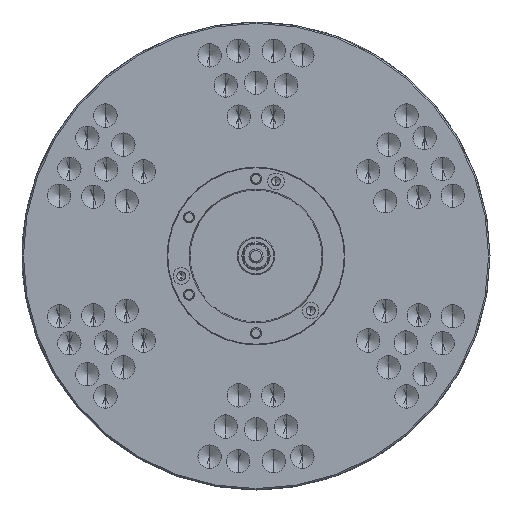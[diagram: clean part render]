
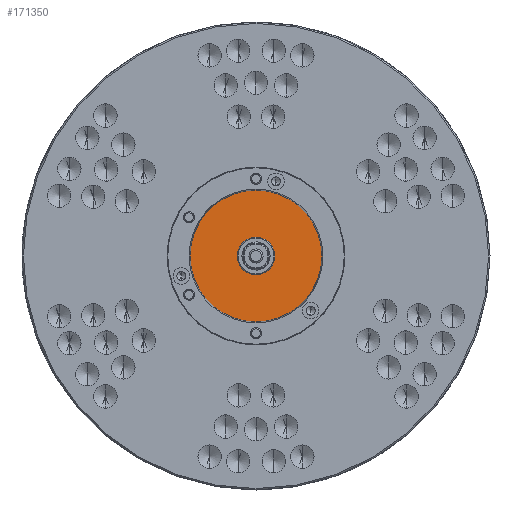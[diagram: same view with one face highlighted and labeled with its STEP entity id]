
A CAD part, left-side view. The second image highlights one B-rep face of the part: STEP entity #171350.
In plain terms, the highlighted planar face has unit normal (-1, 0, 0) as drawn and (0, 0, -1) by its records, which use the part's own axes.
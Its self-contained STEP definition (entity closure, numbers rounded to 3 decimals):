
#9912 = DIRECTION ( 'NONE',  ( 1., 0., 0. ) ) ;
#12284 = EDGE_CURVE ( 'NONE', #143545, #151037, #40623, .T. ) ;
#23674 = EDGE_CURVE ( 'NONE', #90284, #147902, #31644, .T. ) ;
#26079 = CARTESIAN_POINT ( 'NONE',  ( 140.7, 0., -145. ) ) ;
#31644 = CIRCLE ( 'NONE', #101447, 140.7 ) ;
#36770 = AXIS2_PLACEMENT_3D ( 'NONE', #184785, #97228, #9912 ) ;
#39823 = DIRECTION ( 'NONE',  ( 0., 0., 1. ) ) ;
#40623 = CIRCLE ( 'NONE', #48504, 40. ) ;
#48504 = AXIS2_PLACEMENT_3D ( 'NONE', #163256, #75747, #178021 ) ;
#52492 = DIRECTION ( 'NONE',  ( 0., 0., 1. ) ) ;
#53325 = EDGE_CURVE ( 'NONE', #151037, #143545, #156092, .T. ) ;
#53471 = CARTESIAN_POINT ( 'NONE',  ( 40., 0., -145. ) ) ;
#60209 = CARTESIAN_POINT ( 'NONE',  ( -140.7, 0., -145. ) ) ;
#60655 = ORIENTED_EDGE ( 'NONE', *, *, #12284, .T. ) ;
#75747 = DIRECTION ( 'NONE',  ( 0., 0., 1. ) ) ;
#75757 = AXIS2_PLACEMENT_3D ( 'NONE', #112574, #39823, #141941 ) ;
#75853 = DIRECTION ( 'NONE',  ( 0., 0., 1. ) ) ;
#80095 = FACE_OUTER_BOUND ( 'NONE', #184308, .T. ) ;
#83165 = PLANE ( 'NONE',  #75757 ) ;
#88872 = CARTESIAN_POINT ( 'NONE',  ( -40., 0., -145. ) ) ;
#90284 = VERTEX_POINT ( 'NONE', #60209 ) ;
#93834 = CIRCLE ( 'NONE', #36770, 140.7 ) ;
#97228 = DIRECTION ( 'NONE',  ( 0., 0., 1. ) ) ;
#101447 = AXIS2_PLACEMENT_3D ( 'NONE', #163360, #75853, #178126 ) ;
#110315 = EDGE_LOOP ( 'NONE', ( #60655, #127417 ) ) ;
#112574 = CARTESIAN_POINT ( 'NONE',  ( 0., -140.7, -145. ) ) ;
#123011 = ORIENTED_EDGE ( 'NONE', *, *, #171317, .F. ) ;
#127417 = ORIENTED_EDGE ( 'NONE', *, *, #53325, .T. ) ;
#139959 = CARTESIAN_POINT ( 'NONE',  ( 0., 0., -145. ) ) ;
#141941 = DIRECTION ( 'NONE',  ( 1., 0., 0. ) ) ;
#143545 = VERTEX_POINT ( 'NONE', #53471 ) ;
#147902 = VERTEX_POINT ( 'NONE', #26079 ) ;
#151037 = VERTEX_POINT ( 'NONE', #88872 ) ;
#154640 = DIRECTION ( 'NONE',  ( 1., 0., 0. ) ) ;
#156092 = CIRCLE ( 'NONE', #164386, 40. ) ;
#157773 = FACE_BOUND ( 'NONE', #110315, .T. ) ;
#163256 = CARTESIAN_POINT ( 'NONE',  ( 0., 0., -145. ) ) ;
#163360 = CARTESIAN_POINT ( 'NONE',  ( 0., 0., -145. ) ) ;
#164386 = AXIS2_PLACEMENT_3D ( 'NONE', #139959, #52492, #154640 ) ;
#164888 = ORIENTED_EDGE ( 'NONE', *, *, #23674, .F. ) ;
#171317 = EDGE_CURVE ( 'NONE', #147902, #90284, #93834, .T. ) ;
#171350 = ADVANCED_FACE ( 'NONE', ( #157773, #80095 ), #83165, .F. ) ;
#178021 = DIRECTION ( 'NONE',  ( 1., 0., 0. ) ) ;
#178126 = DIRECTION ( 'NONE',  ( 1., 0., 0. ) ) ;
#184308 = EDGE_LOOP ( 'NONE', ( #123011, #164888 ) ) ;
#184785 = CARTESIAN_POINT ( 'NONE',  ( 0., 0., -145. ) ) ;
